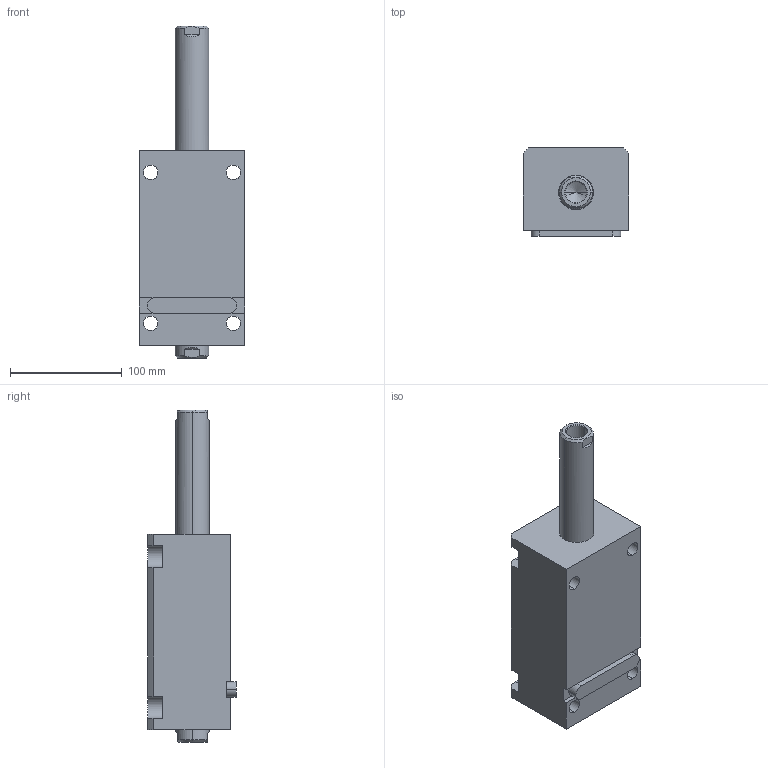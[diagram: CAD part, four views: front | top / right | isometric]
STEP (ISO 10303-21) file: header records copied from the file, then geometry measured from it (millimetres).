
FILE_DESCRIPTION (( 'STEP AP203' ), '1' );
FILE_NAME ('CHTB-LW50-100N.STEP', '2018-05-18T10:06:48', ( '' ), ( '' ), 'SwSTEP 2.0', 'SolidWorks 2015', '' );
FILE_SCHEMA (( 'CONFIG_CONTROL_DESIGN' ));
Length unit declared in the file: millimetre
Products named in the file (4): 掛极LW50-100N; CHTM-SDMA50QG; CHTB-LW50-100N; 活塞杆LW50-100N
Assembly tree (3 placements, depth 2):
  CHTB-LW50-100N
    掛极LW50-100N
    活塞杆LW50-100N
    CHTM-SDMA50QG
Bounding box: 94 x 79 x 297 mm (x, y, z)
Volume: 1103563 mm3; surface area: 161773.5 mm2
Topology: 3 solids, 3 shells, 221 faces, 588 edges, 385 vertices
Faces by surface type: cylinder 102, plane 58, cone 31, torus 16, bspline 14
Entity records: 11831 total; most frequent: CARTESIAN_POINT 6126, ORIENTED_EDGE 1160, DIRECTION 1056, EDGE_CURVE 580, AXIS2_PLACEMENT_3D 416, VERTEX_POINT 385, EDGE_LOOP 257, LINE 224
